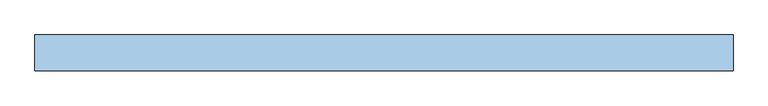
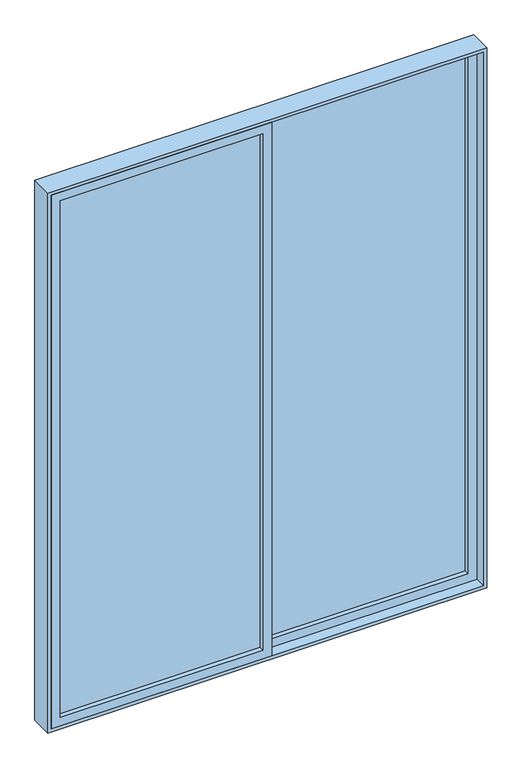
"""IFC4 building model written with IfcOpenShell, lengths in millimetres: window geometry, VENT_ALUM_CORR_2HOJAS_CORRE 1 : VD-3 / CORRE RECAM 1.96 X 2.55."""

from ifc_helpers import new_model, si_unit, frame, origin, place, context, project, spatial, polyline, outline, extrude, source, transform, mapped, element, save


def window_c27cc902(model_context):
    return source(origin(), model_context, "Body", "SweptSolid", [
        extrude(outline(polyline([(-20.0, -28.0), (-925.0, -28.0), (-925.0, -22.0), (-20.0, -22.0), (-20.0, -28.0)])), frame((0.0, 0.0, 855.0), z_axis=(0.0, 0.0, 1.0), x_axis=(1.0, 0.0, 0.0)), (0.0, 0.0, 1.0), 2440.0),
        extrude(outline(polyline([(815.0, -965.0), (815.0, 20.0), (3335.0, 20.0), (3335.0, -965.0), (815.0, -965.0)]), holes=[polyline([(3295.0, -925.0), (3295.0, -20.0), (855.0, -20.0), (855.0, -925.0), (3295.0, -925.0)])]), frame((0.0, -50.0, 0.0), z_axis=(0.0, 1.0, 0.0), x_axis=(0.0, 0.0, 1.0)), (0.0, 0.0, 1.0), 50.0),
        extrude(outline(polyline([(20.0, 28.0), (925.0, 28.0), (925.0, 22.0), (20.0, 22.0), (20.0, 28.0)])), frame((0.0, 0.0, 855.0), z_axis=(0.0, 0.0, 1.0), x_axis=(1.0, 0.0, 0.0)), (0.0, 0.0, 1.0), 2440.0),
        extrude(outline(polyline([(815.0, -20.0), (815.0, 965.0), (3335.0, 965.0), (3335.0, -20.0), (815.0, -20.0)]), holes=[polyline([(3295.0, 20.0), (3295.0, 925.0), (855.0, 925.0), (855.0, 20.0), (3295.0, 20.0)])]), frame((0.0, 0.0, 0.0), z_axis=(0.0, 1.0, 0.0), x_axis=(0.0, 0.0, 1.0)), (0.0, 0.0, 1.0), 50.0),
        extrude(outline(polyline([(800.0, -980.0), (800.0, 980.0), (3350.0, 980.0), (3350.0, -980.0), (800.0, -980.0)]), holes=[polyline([(3335.0, -965.0), (3335.0, 965.0), (815.0, 965.0), (815.0, -965.0), (3335.0, -965.0)])]), frame((0.0, -50.0, 0.0), z_axis=(0.0, 1.0, 0.0), x_axis=(0.0, 0.0, 1.0)), (0.0, 0.0, 1.0), 100.0),
    ])


if __name__ == "__main__":
    model = new_model("IFC4")
    model_context = context("Model", 3, world=origin())
    ifc_project = project(units=[si_unit("LENGTHUNIT", "METRE", prefix="MILLI")], contexts=[model_context])
    site = spatial("IfcSite", under=ifc_project)
    building = spatial("IfcBuilding", under=site)
    placement = place(None, origin())
    window_shape = window_c27cc902(model_context)
    element("IfcWindow", 1, ObjectType="VENT_ALUM_CORR_2HOJAS_CORRE 1 : VD-3 / CORRE RECAM 1.96 X 2.55", at=placement, inside=building, context=model_context, shape_type="MappedRepresentation", body=[
        mapped(window_shape, transform((0.0, 0.0, 0.0), x_axis=(1.0, 0.0, 0.0), y_axis=(0.0, 1.0, 0.0), z_axis=(0.0, 0.0, 1.0))),
    ])
    save(model, "model.ifc")
